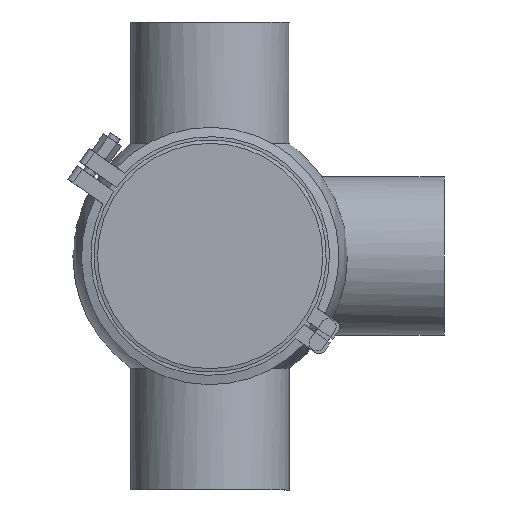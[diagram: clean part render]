
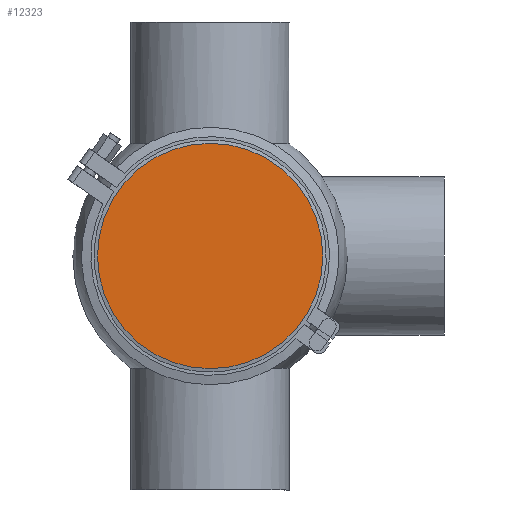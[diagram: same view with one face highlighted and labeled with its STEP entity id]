
A CAD part, front view. The second image highlights one B-rep face of the part: STEP entity #12323.
In plain terms, the highlighted planar face has unit normal (0, -1, 0).
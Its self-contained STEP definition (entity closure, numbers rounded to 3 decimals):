
#41 = DIRECTION ( 'NONE',  ( 0., -1., 0. ) ) ;
#1622 = CARTESIAN_POINT ( 'NONE',  ( 0., 0., 0. ) ) ;
#3045 = DIRECTION ( 'NONE',  ( 0., 1., 0. ) ) ;
#3747 = FACE_OUTER_BOUND ( 'NONE', #12376, .T. ) ;
#4840 = AXIS2_PLACEMENT_3D ( 'NONE', #1622, #3045, #18074 ) ;
#6924 = EDGE_CURVE ( 'NONE', #19527, #19527, #20146, .T. ) ;
#6927 = PLANE ( 'NONE',  #18613 ) ;
#9966 = CARTESIAN_POINT ( 'NONE',  ( 0., 0., 72.25 ) ) ;
#12323 = ADVANCED_FACE ( 'NONE', ( #3747 ), #6927, .T. ) ;
#12376 = EDGE_LOOP ( 'NONE', ( #14120 ) ) ;
#14120 = ORIENTED_EDGE ( 'NONE', *, *, #6924, .F. ) ;
#17015 = CARTESIAN_POINT ( 'NONE',  ( -72.25, 0., 0. ) ) ;
#18074 = DIRECTION ( 'NONE',  ( 0., 0., 1. ) ) ;
#18460 = DIRECTION ( 'NONE',  ( 0., 0., -1. ) ) ;
#18613 = AXIS2_PLACEMENT_3D ( 'NONE', #17015, #41, #18460 ) ;
#19527 = VERTEX_POINT ( 'NONE', #9966 ) ;
#20146 = CIRCLE ( 'NONE', #4840, 72.25 ) ;
